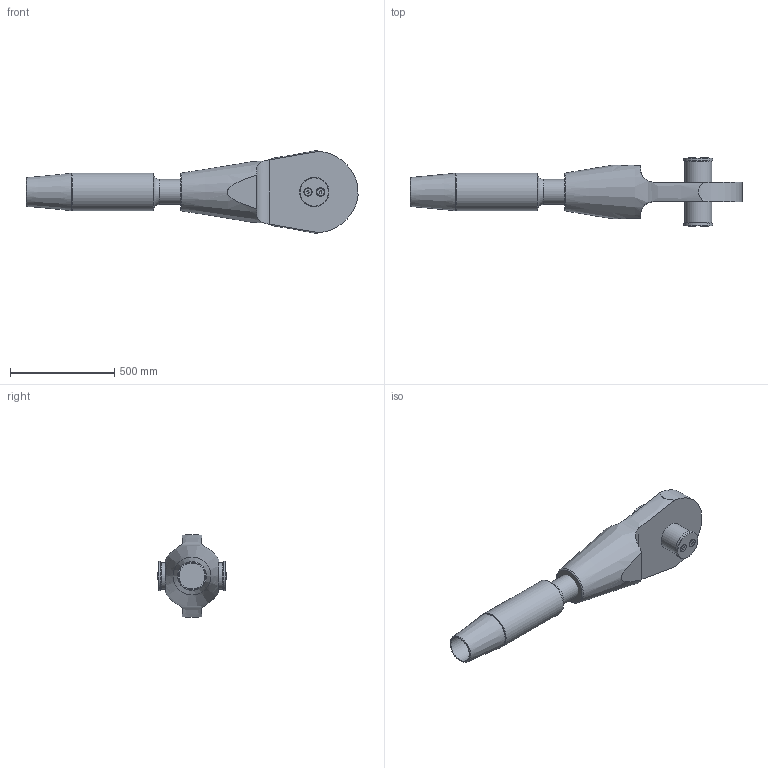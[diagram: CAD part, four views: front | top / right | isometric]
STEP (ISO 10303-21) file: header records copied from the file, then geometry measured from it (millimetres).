
FILE_DESCRIPTION(/* description */ (''),/* implementation_level */ '2;1');
FILE_NAME(/* name */ 'C:\Vault_WS\Designs\SB\01-PX\Verzinkt\ZSS\520 - Zusambau-OES-ADA\520-120-OES-ADA.stp',/* time_stamp */ '2020-10-08T09:59:57+02:00',/* author */ ('schwarz'),/* organization */ (''),/* preprocessor_version */ 'ST-DEVELOPER v18.1',/* originating_system */ 'Autodesk Inventor 2020',/* authorisation */ '');
FILE_SCHEMA (('AUTOMOTIVE_DESIGN { 1 0 10303 214 3 1 1 }'));
Length unit declared in the file: millimetre
Products named in the file (1): 520-120-OES-ADA-Kunde
Bounding box: 1589.37 x 327 x 394.2 mm (x, y, z)
Volume: 51766288.7 mm3; surface area: 1625450.5 mm2
Topology: 10 solids, 10 shells, 109 faces, 281 edges, 193 vertices
Faces by surface type: plane 50, cone 29, cylinder 28, torus 2
Full cylindrical faces by diameter (mm): 17.294 x4, 20 x4, 22 x4, 36.05 x4, 120 x1, 124 x1, 129 x1, 132 x1, 140 x2, 180 x1
Entity records: 3635 total; most frequent: CARTESIAN_POINT 782, DIRECTION 572, ORIENTED_EDGE 546, EDGE_CURVE 273, AXIS2_PLACEMENT_3D 232, VERTEX_POINT 193, EDGE_LOOP 128, CIRCLE 122
